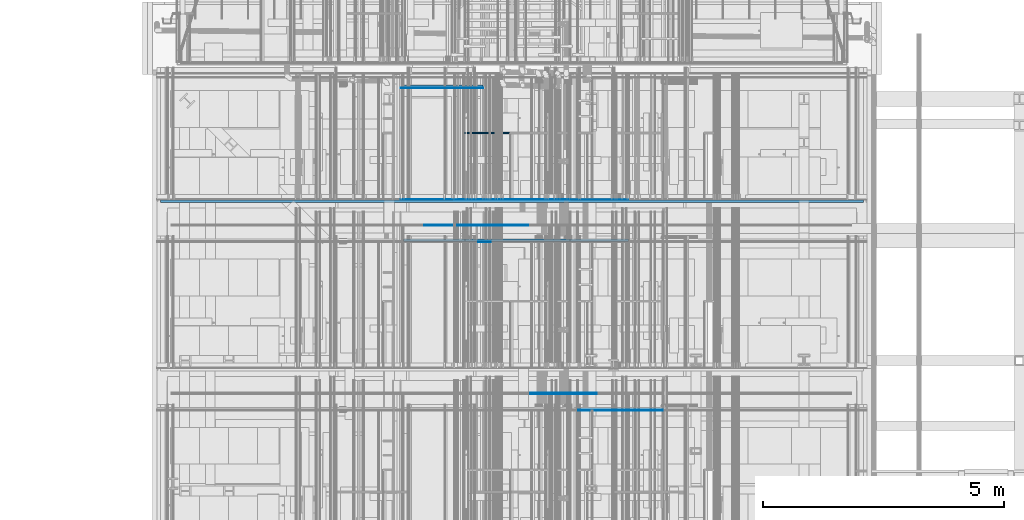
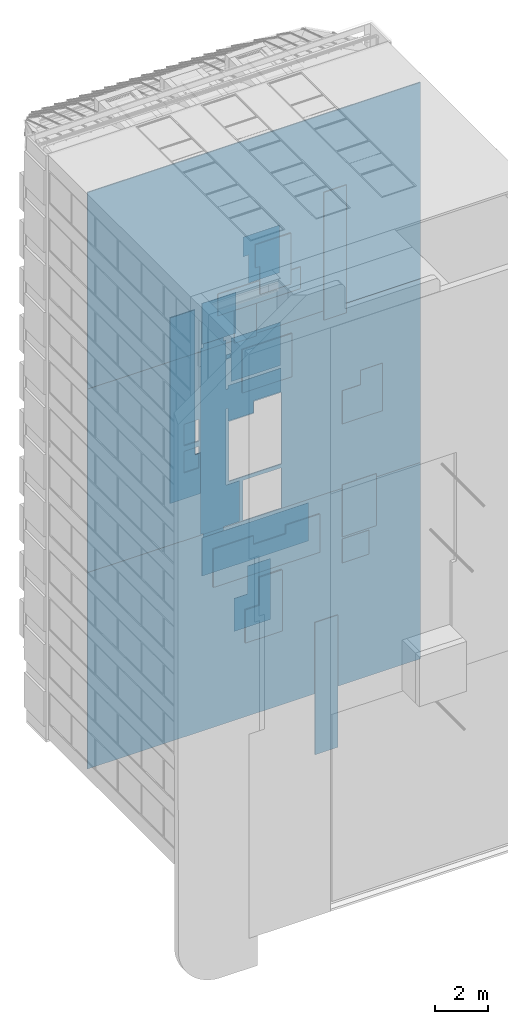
# One storey, part 253 of 583: 32 slabs.
"""IFC2X3 building model written with IfcOpenShell, lengths in metres."""

import ifcopenshell
import ifcopenshell.guid

model = None  # the IFC model being written
_history = None  # IfcOwnerHistory: only IFC2X3 demands one
_inside = {}  # id of a spatial element -> (the spatial element, [elements in it])
_under = {}  # id of a project, library or spatial element -> (it, [spatial elements below it])
_declared = {}  # id of a project -> (the project, [libraries it declares])
_typed = {}  # id of a type object -> (the type object, [elements of that type])
_made_of = {}  # id of a material, layer set ... -> (it, [elements and type objects made of it])


def new_model(schema):
    """Start an empty IFC model of exactly this schema.

    Asked for "IFC4X3", IfcOpenShell would pick the latest addendum, in which some entities
    have other attributes; the version numbers below select the first issue.
    IFC2X3 requires an IfcOwnerHistory on every rooted entity: one is made here for all.
    """
    global model, _history
    if schema == "IFC4X3":
        model = ifcopenshell.file(schema_version=(4, 3, 0, 0))
    else:
        model = ifcopenshell.file(schema=schema)
    _inside.clear()
    _under.clear()
    _declared.clear()
    _typed.clear()
    _made_of.clear()
    _history = None
    if model.schema == "IFC2X3":
        org = make("IfcOrganization", Name="unknown")
        user = make(
            "IfcPersonAndOrganization",
            ThePerson=make("IfcPerson", FamilyName="unknown"),
            TheOrganization=org,
        )
        app = make(
            "IfcApplication",
            ApplicationDeveloper=org,
            Version="unknown",
            ApplicationFullName="unknown",
            ApplicationIdentifier="unknown",
        )
        _history = make(
            "IfcOwnerHistory",
            OwningUser=user,
            OwningApplication=app,
            ChangeAction="ADDED",
            CreationDate=0,
        )
    return model


def make(cls, **values):
    """One entity of the class cls with the attributes given. An attribute that is None is left unset."""
    return model.create_entity(
        cls, **{name: value for name, value in values.items() if value is not None}
    )


def entity(cls, *values):
    """Any entity or typed value of the class cls, its attributes in the order of the schema. None: left unset."""
    e = model.create_entity(cls)
    for i, value in enumerate(values):
        if value is not None:
            e[i] = value
    return e


def rooted(cls, **values):
    """An entity with a GlobalId (a new one), such as an element, a storey or a relation."""
    return make(cls, GlobalId=ifcopenshell.guid.new(), OwnerHistory=_history, **values)


def si_unit(unit_type, name, prefix=None):
    """IfcSIUnit, for example si_unit("LENGTHUNIT", "METRE", prefix="MILLI")."""
    return make("IfcSIUnit", UnitType=unit_type, Prefix=prefix, Name=name)


def converted_unit(unit_type, name, factor, base, dimensions=None, offset=None):
    """IfcConversionBasedUnit, such as the inch: factor (a typed value) times the base unit."""
    return make(
        "IfcConversionBasedUnit"
        if offset is None
        else "IfcConversionBasedUnitWithOffset",
        ConversionOffset=offset,
        Dimensions=None
        if dimensions is None
        else entity("IfcDimensionalExponents", *dimensions),
        UnitType=unit_type,
        Name=name,
        ConversionFactor=make(
            "IfcMeasureWithUnit", ValueComponent=factor, UnitComponent=base
        ),
    )


def derived_unit(unit_type, elements):
    """IfcDerivedUnit: a product of units, each with its exponent."""
    return make(
        "IfcDerivedUnit",
        Elements=[
            make("IfcDerivedUnitElement", Unit=unit, Exponent=power)
            for unit, power in elements
        ],
        UnitType=unit_type,
    )


def money_unit(currency):
    """IfcMonetaryUnit."""
    return make("IfcMonetaryUnit", Currency=currency)


def assignment(units):
    """IfcUnitAssignment: the units of a project."""
    return None if units is None else make("IfcUnitAssignment", Units=units)


def point(xyz):
    """IfcCartesianPoint."""
    return None if xyz is None else make("IfcCartesianPoint", Coordinates=xyz)


def direction(xyz):
    """IfcDirection."""
    return None if xyz is None else make("IfcDirection", DirectionRatios=xyz)


def frame(location, z_axis=None, x_axis=None):
    """IfcAxis2Placement3D, a coordinate frame: its origin and axes. An axis left out is left unset."""
    return make(
        "IfcAxis2Placement3D",
        Location=point(location),
        Axis=direction(z_axis),
        RefDirection=direction(x_axis),
    )


def origin_with_axes():
    """The frame at (0, 0, 0) with the z axis (0, 0, 1) and the x axis (1, 0, 0) written out."""
    return frame((0.0, 0.0, 0.0), z_axis=(0.0, 0.0, 1.0), x_axis=(1.0, 0.0, 0.0))


def place(relative_to, where):
    """IfcLocalPlacement: puts the frame where relative to a parent placement (None: the world)."""
    return make(
        "IfcLocalPlacement", PlacementRelTo=relative_to, RelativePlacement=where
    )


def context(
    kind, dimensions, precision=None, world=None, true_north=None, identifier=None
):
    """IfcGeometricRepresentationContext, for example the 3D "Model" context."""
    return make(
        "IfcGeometricRepresentationContext",
        ContextIdentifier=identifier,
        ContextType=kind,
        CoordinateSpaceDimension=dimensions,
        Precision=precision,
        WorldCoordinateSystem=world,
        TrueNorth=true_north,
    )


def subcontext(parent, identifier, kind, view, scale=None):
    """IfcGeometricRepresentationSubContext, for example "Body" below "Model"."""
    return make(
        "IfcGeometricRepresentationSubContext",
        ContextIdentifier=identifier,
        ContextType=kind,
        ParentContext=parent,
        TargetScale=scale,
        TargetView=view,
    )


def project(units=None, contexts=None):
    """IfcProject with its units and contexts."""
    return rooted(
        "IfcProject",
        Name="project",
        RepresentationContexts=contexts,
        UnitsInContext=assignment(units),
    )


def spatial(cls, under=None, at=None, **own):
    """A site, building, storey or space (cls), placed at a placement, below another one or the project."""
    s = rooted(cls, ObjectPlacement=at, **own)
    if under is not None:
        _under.setdefault(under.id(), (under, []))[1].append(s)
    return s


def faces_of(points, faces, orient=None, outer=None):
    """IfcFace entities. A face is a list of loops; a loop is a list of indices into points, from 0.

    orient and outer hold one flag for each loop. By default every Orientation is true, the
    first loop of a face is its IfcFaceOuterBound and the others are IfcFaceBound.
    """
    made = []
    for i, loops in enumerate(faces):
        bounds = []
        for j, loop in enumerate(loops):
            is_outer = j == 0 if outer is None else outer[i][j]
            bounds.append(
                make(
                    "IfcFaceOuterBound" if is_outer else "IfcFaceBound",
                    Bound=make("IfcPolyLoop", Polygon=[points[k] for k in loop]),
                    Orientation=True if orient is None else orient[i][j],
                )
            )
        made.append(make("IfcFace", Bounds=bounds))
    return made


def faceted_brep(points, faces, orient=None, outer=None, voids=None):
    """IfcFacetedBrep: a solid bounded by flat faces; with voids (closed shells), ...WithVoids."""
    shared = [point(p) for p in points]
    hull = make("IfcClosedShell", CfsFaces=faces_of(shared, faces, orient, outer))
    if voids is None:
        return make("IfcFacetedBrep", Outer=hull)
    return make(
        "IfcFacetedBrepWithVoids",
        Outer=hull,
        Voids=[
            make(cls, CfsFaces=faces_of(shared, fs, o, b)) for cls, fs, o, b in voids
        ],
    )


def shape(context_of_items, identifier, shape_type, items):
    """IfcShapeRepresentation: the items that make up one representation, for example the "Body"."""
    return make(
        "IfcShapeRepresentation",
        ContextOfItems=context_of_items,
        RepresentationIdentifier=identifier,
        RepresentationType=shape_type,
        Items=items,
    )


def material(Name=None, Category=None):
    """IfcMaterial."""
    return make("IfcMaterial", Name=Name, Category=Category)


def made_of(thing, what):
    """Note that an element or type object is made of a material, layer set ...; save() writes the relation."""
    if what is not None:
        _made_of.setdefault(what.id(), (what, []))[1].append(thing)
    return thing


def type_object(cls, material=None, **own):
    """A type object (cls), such as IfcWallType, which elements share."""
    return made_of(rooted(cls, **own), material)


def element(
    cls,
    number,
    at=None,
    inside=None,
    cuts=None,
    type_object=None,
    material=None,
    context=None,
    identifier="Body",
    shape_type=None,
    held_by="IfcProductDefinitionShape",
    body=None,
    shapes=None,
    **own,
):
    """One element of the class cls, such as IfcWall. Its Tag is "e" and its number.

    at: its placement. inside: the storey or other place that contains it. cuts: it is an
    opening in that element (IfcRelVoidsElement). A single representation is given by context,
    identifier, shape_type and body (its items); several are given by shapes. held_by: the class
    of the entity that holds the representations. save() writes the other relations.
    """
    e = rooted(cls, Tag="e%d" % number, ObjectPlacement=at, **own)
    if body is not None:
        shapes = [shape(context, identifier, shape_type, body)]
    if shapes is not None:
        e.Representation = make(held_by, Representations=shapes)
    if inside is not None:
        _inside.setdefault(inside.id(), (inside, []))[1].append(e)
    if cuts is not None:
        rooted(
            "IfcRelVoidsElement", RelatingBuildingElement=cuts, RelatedOpeningElement=e
        )
    if type_object is not None:
        _typed.setdefault(type_object.id(), (type_object, []))[1].append(e)
    return made_of(e, material)


def aggregate(whole, parts):
    """IfcRelAggregates: a whole, such as a stair, and the parts it consists of."""
    return rooted("IfcRelAggregates", RelatingObject=whole, RelatedObjects=parts)


def save(model, path):
    """Write the relations noted so far, then the file.

    IfcRelAggregates (storeys below a building ...), IfcRelContainedInSpatialStructure (elements
    in a storey), IfcRelDefinesByType, IfcRelAssociatesMaterial and IfcRelDeclares: one each for
    every whole, place, type object, material and project.
    """
    for whole, parts in _under.values():
        aggregate(whole, parts)
    for where, things in _inside.values():
        rooted(
            "IfcRelContainedInSpatialStructure",
            RelatedElements=things,
            RelatingStructure=where,
        )
    for kind, things in _typed.values():
        rooted("IfcRelDefinesByType", RelatedObjects=things, RelatingType=kind)
    for what, things in _made_of.values():
        rooted("IfcRelAssociatesMaterial", RelatedObjects=things, RelatingMaterial=what)
    for by, libraries in _declared.values():
        rooted("IfcRelDeclares", RelatingContext=by, RelatedDefinitions=libraries)
    model.write(path)


model = new_model("IFC2X3")

# Units and contexts
model_context = context("Model", 3, precision=1e-05, world=origin_with_axes(), true_north=direction((0.0, 1.0)))
body_context = subcontext(model_context, "Body", "Model", "MODEL_VIEW", scale=1.0)
ifc_project = project(units=[si_unit("LENGTHUNIT", "METRE"), si_unit("AREAUNIT", "SQUARE_METRE"), si_unit("VOLUMEUNIT", "CUBIC_METRE"), si_unit("ABSORBEDDOSEUNIT", "GRAY"), si_unit("AMOUNTOFSUBSTANCEUNIT", "MOLE"), si_unit("DOSEEQUIVALENTUNIT", "SIEVERT"), si_unit("ELECTRICCAPACITANCEUNIT", "FARAD"), si_unit("ELECTRICCHARGEUNIT", "COULOMB"), si_unit("ELECTRICCONDUCTANCEUNIT", "SIEMENS"), si_unit("ELECTRICCURRENTUNIT", "AMPERE"), si_unit("ELECTRICRESISTANCEUNIT", "OHM"), si_unit("ELECTRICVOLTAGEUNIT", "VOLT"), si_unit("ENERGYUNIT", "JOULE"), si_unit("FORCEUNIT", "NEWTON"), si_unit("FREQUENCYUNIT", "HERTZ"), si_unit("ILLUMINANCEUNIT", "LUX"), si_unit("INDUCTANCEUNIT", "HENRY"), si_unit("LUMINOUSFLUXUNIT", "LUMEN"), si_unit("LUMINOUSINTENSITYUNIT", "CANDELA"), si_unit("MAGNETICFLUXDENSITYUNIT", "TESLA"), si_unit("MAGNETICFLUXUNIT", "WEBER"), si_unit("MASSUNIT", "GRAM"), converted_unit("PLANEANGLEUNIT", "degree", entity("IfcReal", 0.0174532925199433), si_unit("PLANEANGLEUNIT", "RADIAN"), dimensions=[0, 0, 0, 0, 0, 0, 0]), si_unit("POWERUNIT", "WATT"), si_unit("PRESSUREUNIT", "PASCAL"), si_unit("RADIOACTIVITYUNIT", "BECQUEREL"), si_unit("SOLIDANGLEUNIT", "STERADIAN"), si_unit("THERMODYNAMICTEMPERATUREUNIT", "KELVIN"), si_unit("TIMEUNIT", "SECOND"), derived_unit("ACCELERATIONUNIT", [(si_unit("LENGTHUNIT", "METRE"), 1), (si_unit("TIMEUNIT", "SECOND"), -2)]), derived_unit("ANGULARVELOCITYUNIT", [(converted_unit("PLANEANGLEUNIT", "degree", entity("IfcReal", 0.0174532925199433), si_unit("PLANEANGLEUNIT", "RADIAN"), dimensions=[0, 0, 0, 0, 0, 0, 0]), 1), (si_unit("TIMEUNIT", "SECOND"), -1)]), derived_unit("CURVATUREUNIT", [(converted_unit("PLANEANGLEUNIT", "degree", entity("IfcReal", 0.0174532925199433), si_unit("PLANEANGLEUNIT", "RADIAN"), dimensions=[0, 0, 0, 0, 0, 0, 0]), 1), (si_unit("LENGTHUNIT", "METRE"), -1)]), derived_unit("DYNAMICVISCOSITYUNIT", [(si_unit("PRESSUREUNIT", "PASCAL"), 1), (si_unit("TIMEUNIT", "SECOND"), 1)]), derived_unit("HEATFLUXDENSITYUNIT", [(si_unit("POWERUNIT", "WATT"), 1), (si_unit("LENGTHUNIT", "METRE"), -2)]), derived_unit("HEATINGVALUEUNIT", [(si_unit("ENERGYUNIT", "JOULE"), 1), (si_unit("MASSUNIT", "GRAM"), -1)]), derived_unit("INTEGERCOUNTRATEUNIT", [(si_unit("TIMEUNIT", "SECOND"), -1)]), derived_unit("IONCONCENTRATIONUNIT", [(si_unit("MASSUNIT", "GRAM"), 1), (si_unit("VOLUMEUNIT", "CUBIC_METRE"), -1)]), derived_unit("ISOTHERMALMOISTURECAPACITYUNIT", [(si_unit("VOLUMEUNIT", "CUBIC_METRE"), 1), (si_unit("MASSUNIT", "GRAM"), -1)]), derived_unit("KINEMATICVISCOSITYUNIT", [(si_unit("AREAUNIT", "SQUARE_METRE"), 1), (si_unit("TIMEUNIT", "SECOND"), -1)]), derived_unit("LINEARFORCEUNIT", [(si_unit("FORCEUNIT", "NEWTON"), 1), (si_unit("LENGTHUNIT", "METRE"), -1)]), derived_unit("LINEARMOMENTUNIT", [(si_unit("FORCEUNIT", "NEWTON"), 1), (si_unit("LENGTHUNIT", "METRE"), -1)]), derived_unit("LINEARSTIFFNESSUNIT", [(si_unit("FORCEUNIT", "NEWTON"), 1), (si_unit("LENGTHUNIT", "METRE"), -1)]), derived_unit("LINEARVELOCITYUNIT", [(si_unit("LENGTHUNIT", "METRE"), 1), (si_unit("TIMEUNIT", "SECOND"), -1)]), derived_unit("LUMINOUSINTENSITYDISTRIBUTIONUNIT", [(si_unit("LUMINOUSINTENSITYUNIT", "CANDELA"), 1), (si_unit("LUMINOUSFLUXUNIT", "LUMEN"), -1)]), derived_unit("MASSDENSITYUNIT", [(si_unit("MASSUNIT", "GRAM"), 1), (si_unit("VOLUMEUNIT", "CUBIC_METRE"), -1)]), derived_unit("MASSFLOWRATEUNIT", [(si_unit("MASSUNIT", "GRAM"), 1), (si_unit("TIMEUNIT", "SECOND"), -1)]), derived_unit("MASSPERLENGTHUNIT", [(si_unit("MASSUNIT", "GRAM"), 1), (si_unit("LENGTHUNIT", "METRE"), -1)]), derived_unit("MODULUSOFELASTICITYUNIT", [(si_unit("FORCEUNIT", "NEWTON"), 1), (si_unit("AREAUNIT", "SQUARE_METRE"), -1)]), derived_unit("MODULUSOFLINEARSUBGRADEREACTIONUNIT", [(si_unit("FORCEUNIT", "NEWTON"), 1), (si_unit("LENGTHUNIT", "METRE"), -2)]), derived_unit("MODULUSOFROTATIONALSUBGRADEREACTIONUNIT", [(si_unit("FORCEUNIT", "NEWTON"), 1), (si_unit("LENGTHUNIT", "METRE"), 1)]), derived_unit("MODULUSOFSUBGRADEREACTIONUNIT", [(si_unit("FORCEUNIT", "NEWTON"), 1), (si_unit("VOLUMEUNIT", "CUBIC_METRE"), -1)]), derived_unit("MOISTUREDIFFUSIVITYUNIT", [(si_unit("VOLUMEUNIT", "CUBIC_METRE"), 1), (si_unit("TIMEUNIT", "SECOND"), -1)]), derived_unit("MOLECULARWEIGHTUNIT", [(si_unit("MASSUNIT", "GRAM"), 1), (si_unit("AMOUNTOFSUBSTANCEUNIT", "MOLE"), -1)]), derived_unit("PLANARFORCEUNIT", [(si_unit("FORCEUNIT", "NEWTON"), 1), (si_unit("LENGTHUNIT", "METRE"), -2)]), derived_unit("ROTATIONALFREQUENCYUNIT", [(si_unit("TIMEUNIT", "SECOND"), -1)]), derived_unit("ROTATIONALMASSUNIT", [(si_unit("MASSUNIT", "GRAM"), 1), (si_unit("LENGTHUNIT", "METRE"), 2)]), derived_unit("ROTATIONALSTIFFNESSUNIT", [(si_unit("FORCEUNIT", "NEWTON"), 1), (si_unit("LENGTHUNIT", "METRE"), 1), (converted_unit("PLANEANGLEUNIT", "degree", entity("IfcReal", 0.0174532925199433), si_unit("PLANEANGLEUNIT", "RADIAN"), dimensions=[0, 0, 0, 0, 0, 0, 0]), -1)]), derived_unit("SECTIONAREAINTEGRALUNIT", [(si_unit("LENGTHUNIT", "METRE"), 5)]), derived_unit("SECTIONMODULUSUNIT", [(si_unit("LENGTHUNIT", "METRE"), 3)]), derived_unit("SHEARMODULUSUNIT", [(si_unit("FORCEUNIT", "NEWTON"), 1), (si_unit("AREAUNIT", "SQUARE_METRE"), -1)]), derived_unit("SOUNDPOWERUNIT", [(si_unit("ENERGYUNIT", "JOULE"), 1), (si_unit("TIMEUNIT", "SECOND"), -1)]), derived_unit("SPECIFICHEATCAPACITYUNIT", [(si_unit("FORCEUNIT", "NEWTON"), 1), (si_unit("MASSUNIT", "GRAM"), -1), (si_unit("THERMODYNAMICTEMPERATUREUNIT", "KELVIN"), -1)]), derived_unit("TEMPERATUREGRADIENTUNIT", [(si_unit("THERMODYNAMICTEMPERATUREUNIT", "KELVIN"), 1), (si_unit("LENGTHUNIT", "METRE"), -1)]), derived_unit("THERMALADMITTANCEUNIT", [(si_unit("POWERUNIT", "WATT"), 1), (si_unit("AREAUNIT", "SQUARE_METRE"), -1), (si_unit("THERMODYNAMICTEMPERATUREUNIT", "KELVIN"), -1)]), derived_unit("THERMALCONDUCTANCEUNIT", [(si_unit("POWERUNIT", "WATT"), 1), (si_unit("LENGTHUNIT", "METRE"), -1), (si_unit("THERMODYNAMICTEMPERATUREUNIT", "KELVIN"), -1)]), derived_unit("THERMALEXPANSIONCOEFFICIENTUNIT", [(si_unit("THERMODYNAMICTEMPERATUREUNIT", "KELVIN"), -1)]), derived_unit("THERMALRESISTANCEUNIT", [(si_unit("AREAUNIT", "SQUARE_METRE"), 1), (si_unit("POWERUNIT", "WATT"), -1)]), derived_unit("THERMALTRANSMITTANCEUNIT", [(si_unit("POWERUNIT", "WATT"), 1), (si_unit("AREAUNIT", "SQUARE_METRE"), -1), (si_unit("THERMODYNAMICTEMPERATUREUNIT", "KELVIN"), -1)]), derived_unit("TORQUEUNIT", [(si_unit("FORCEUNIT", "NEWTON"), 1), (si_unit("LENGTHUNIT", "METRE"), 1)]), derived_unit("VAPORPERMEABILITYUNIT", [(si_unit("MASSUNIT", "GRAM"), 1), (si_unit("TIMEUNIT", "SECOND"), -1)]), derived_unit("VOLUMETRICFLOWRATEUNIT", [(si_unit("VOLUMEUNIT", "CUBIC_METRE"), 1), (si_unit("TIMEUNIT", "SECOND"), -1)]), derived_unit("WARPINGCONSTANTUNIT", [(si_unit("LENGTHUNIT", "METRE"), 6)]), derived_unit("WARPINGMOMENTUNIT", [(si_unit("FORCEUNIT", "NEWTON"), 1), (si_unit("LENGTHUNIT", "METRE"), 2)]), money_unit("GBP")], contexts=[model_context])

# Site, building, storey
site_placement = place(None, origin_with_axes())
site = spatial("IfcSite", under=ifc_project, at=site_placement, Name="Site", CompositionType="ELEMENT")
building_placement = place(site_placement, origin_with_axes())
building = spatial("IfcBuilding", under=site, at=building_placement, Name="Building01", CompositionType="ELEMENT")
storey_placement = place(building_placement, frame((0.0, 0.0, 20.78), z_axis=(0.0, 0.0, 1.0), x_axis=(1.0, 0.0, 0.0)))
storey = spatial("IfcBuildingStorey", under=building, at=storey_placement, Name="RL", CompositionType="ELEMENT", Elevation=20.78)

# Slabs
ifc_material_1 = material(Name="A_BSUK_CeilingSoffitFinishes_Suspended")
slab_type_1 = type_object("IfcSlabType", Name="A-FloorsSlabs A_BSUK_Slabs", PredefinedType="FLOOR")
placement = place(storey_placement, frame((0.0, 0.0, -20.78), z_axis=(0.0, 0.0, 1.0), x_axis=(1.0, 0.0, 0.0)))
element("IfcSlab", 1, at=placement, inside=storey, type_object=slab_type_1, material=ifc_material_1, Name="A-FloorsSlabs A_BSUK_Slabs", ObjectType="CompoundSlabLeaf", context=body_context, shape_type="Brep", body=[
    faceted_brep([(10.32, 7.765, 10.488871), (10.32, 7.78, 10.488871), (10.32, 7.78, 12.893585), (10.32, 7.765, 12.893585), (8.82, 7.765, 10.488871), (8.82, 7.78, 10.488871), (8.82, 7.765, 12.893585), (8.82, 7.78, 12.893585)], [[[0, 1, 2, 3]], [[4, 5, 1, 0]], [[6, 7, 5, 4]], [[3, 2, 7, 6]], [[1, 5, 7, 2]], [[3, 6, 4, 0]]]),
])
element("IfcSlab", 2, at=placement, inside=storey, type_object=slab_type_1, material=ifc_material_1, Name="A-FloorsSlabs A_BSUK_Slabs", ObjectType="CompoundSlabLeaf", context=body_context, shape_type="Brep", body=[
    faceted_brep([(8.82, 7.765, 9.285), (8.82, 7.78, 9.285), (9.992662, 7.78, 9.285), (9.992662, 7.765, 9.285), (8.82, 7.765, 10.393585), (8.82, 7.78, 10.393585), (9.992662, 7.765, 10.393585), (9.992662, 7.78, 10.393585)], [[[0, 1, 2, 3]], [[4, 5, 1, 0]], [[6, 7, 5, 4]], [[3, 2, 7, 6]], [[1, 5, 7, 2]], [[3, 6, 4, 0]]]),
])
element("IfcSlab", 3, at=placement, inside=storey, type_object=slab_type_1, material=ifc_material_1, Name="A-FloorsSlabs A_BSUK_Slabs", ObjectType="CompoundSlabLeaf", context=body_context, shape_type="Brep", body=[
    faceted_brep([(10.57, 7.765, 15.708132), (10.57, 7.78, 15.708132), (10.57, 7.78, 17.905), (10.57, 7.765, 17.905), (8.82, 7.765, 15.708132), (8.82, 7.78, 15.708132), (8.82, 7.765, 17.238132), (8.82, 7.78, 17.238132), (9.62, 7.765, 17.238132), (9.62, 7.78, 17.238132), (9.62, 7.765, 17.905), (9.62, 7.78, 17.905)], [[[0, 1, 2, 3]], [[4, 5, 1, 0]], [[6, 7, 5, 4]], [[8, 9, 7, 6]], [[10, 11, 9, 8]], [[3, 2, 11, 10]], [[1, 5, 7, 9, 11, 2]], [[3, 10, 8, 6, 4, 0]]]),
])
element("IfcSlab", 4, at=placement, inside=storey, type_object=slab_type_1, material=ifc_material_1, Name="A-FloorsSlabs A_BSUK_Slabs", ObjectType="CompoundSlabLeaf", context=body_context, shape_type="Brep", body=[
    faceted_brep([(8.2075, 8.115, 20.510161), (8.2075, 8.13, 20.510161), (9.2075, 8.13, 20.510161), (9.2075, 8.115, 20.510161), (8.2075, 8.115, 26.417), (8.2075, 8.13, 26.417), (9.2075, 8.115, 26.417), (9.2075, 8.13, 26.417)], [[[0, 1, 2, 3]], [[4, 5, 1, 0]], [[6, 7, 5, 4]], [[3, 2, 7, 6]], [[1, 5, 7, 2]], [[3, 6, 4, 0]]]),
])
element("IfcSlab", 5, at=placement, inside=storey, type_object=slab_type_1, material=ifc_material_1, Name="A-FloorsSlabs A_BSUK_Slabs", ObjectType="CompoundSlabLeaf", context=body_context, shape_type="Brep", body=[
    faceted_brep([(7.82317, 8.115, 0.563), (7.82317, 8.13, 0.563), (8.82317, 8.13, 0.563), (8.82317, 8.115, 0.563), (7.82317, 8.115, 6.677169), (7.82317, 8.13, 6.677169), (8.82317, 8.115, 6.677169), (8.82317, 8.13, 6.677169)], [[[0, 1, 2, 3]], [[4, 5, 1, 0]], [[6, 7, 5, 4]], [[3, 2, 7, 6]], [[1, 5, 7, 2]], [[3, 6, 4, 0]]]),
])
element("IfcSlab", 6, at=placement, inside=storey, type_object=slab_type_1, material=ifc_material_1, Name="A-FloorsSlabs A_BSUK_Slabs", ObjectType="CompoundSlabLeaf", context=body_context, shape_type="Brep", body=[
    faceted_brep([(8.2075, 8.1, 20.510161), (8.2075, 8.115, 20.510161), (9.2075, 8.115, 20.510161), (9.2075, 8.1, 20.510161), (8.2075, 8.1, 26.417), (8.2075, 8.115, 26.417), (9.2075, 8.1, 26.417), (9.2075, 8.115, 26.417)], [[[0, 1, 2, 3]], [[4, 5, 1, 0]], [[6, 7, 5, 4]], [[3, 2, 7, 6]], [[1, 5, 7, 2]], [[3, 6, 4, 0]]]),
])
element("IfcSlab", 7, at=placement, inside=storey, type_object=slab_type_1, material=ifc_material_1, Name="A-FloorsSlabs A_BSUK_Slabs", ObjectType="CompoundSlabLeaf", context=body_context, shape_type="Brep", body=[
    faceted_brep([(7.82317, 8.1, 0.563), (7.82317, 8.115, 0.563), (8.82317, 8.115, 0.563), (8.82317, 8.1, 0.563), (7.82317, 8.1, 6.677169), (7.82317, 8.115, 6.677169), (8.82317, 8.1, 6.677169), (8.82317, 8.115, 6.677169)], [[[0, 1, 2, 3]], [[4, 5, 1, 0]], [[6, 7, 5, 4]], [[3, 2, 7, 6]], [[1, 5, 7, 2]], [[3, 6, 4, 0]]]),
])
ifc_material_2 = material(Name="A_BSUK_InternalFinishes_FloorScreed")
element("IfcSlab", 8, at=placement, inside=storey, type_object=slab_type_1, material=ifc_material_2, Name="A-FloorsSlabs A_BSUK_Slabs", ObjectType="CompoundSlabLeaf", context=body_context, shape_type="Brep", body=[
    faceted_brep([(14.73, 12.08, 0.17), (14.73, 12.13, 0.17), (14.73, 12.13, 9.25), (14.73, 12.08, 9.25), (0.17, 12.08, 0.17), (0.17, 12.13, 0.17), (0.17, 12.08, 9.25), (0.17, 12.13, 9.25)], [[[0, 1, 2, 3]], [[4, 5, 1, 0]], [[6, 7, 5, 4]], [[3, 2, 7, 6]], [[1, 5, 7, 2]], [[3, 6, 4, 0]]]),
])
element("IfcSlab", 9, at=placement, inside=storey, type_object=slab_type_1, material=ifc_material_2, Name="A-FloorsSlabs A_BSUK_Slabs", ObjectType="CompoundSlabLeaf", context=body_context, shape_type="Brep", body=[
    faceted_brep([(14.73, 12.08, 17.73), (14.73, 12.13, 17.73), (14.73, 12.13, 26.81), (14.73, 12.08, 26.81), (0.17, 12.08, 17.73), (0.17, 12.13, 17.73), (0.17, 12.08, 26.81), (0.17, 12.13, 26.81)], [[[0, 1, 2, 3]], [[4, 5, 1, 0]], [[6, 7, 5, 4]], [[3, 2, 7, 6]], [[1, 5, 7, 2]], [[3, 6, 4, 0]]]),
])
element("IfcSlab", 10, at=placement, inside=storey, type_object=slab_type_1, material=ifc_material_2, Name="A-FloorsSlabs A_BSUK_Slabs", ObjectType="CompoundSlabLeaf", context=body_context, shape_type="Brep", body=[
    faceted_brep([(8.65, 12.13, 11.13), (6.98, 12.13, 11.13), (6.98, 12.13, 9.25), (0.17, 12.13, 9.25), (0.17, 12.13, 17.73), (14.73, 12.13, 17.73), (14.73, 12.13, 9.25), (8.65, 12.13, 9.25), (5.05385, 12.13, 13.375), (4.389428, 12.13, 13.375), (4.389428, 12.13, 12.375), (5.05385, 12.13, 12.375), (5.05385, 12.13, 14.625), (4.389428, 12.13, 14.625), (4.389428, 12.13, 13.625), (5.05385, 12.13, 13.625), (6.35, 12.13, 14.059316), (6.35, 12.13, 11.3), (8.65, 12.13, 11.3), (8.65, 12.13, 14.609584), (7.454282, 12.13, 14.609584), (7.454282, 12.13, 14.059316), (8.65, 12.08, 11.13), (8.65, 12.08, 9.25), (14.73, 12.08, 9.25), (14.73, 12.08, 17.73), (0.17, 12.08, 17.73), (0.17, 12.08, 9.25), (6.98, 12.08, 9.25), (6.98, 12.08, 11.13), (5.05385, 12.08, 13.375), (5.05385, 12.08, 12.375), (4.389428, 12.08, 12.375), (4.389428, 12.08, 13.375), (6.35, 12.08, 14.059316), (7.454282, 12.08, 14.059316), (7.454282, 12.08, 14.609584), (8.65, 12.08, 14.609584), (8.65, 12.08, 11.3), (6.35, 12.08, 11.3), (5.05385, 12.08, 14.625), (5.05385, 12.08, 13.625), (4.389428, 12.08, 13.625), (4.389428, 12.08, 14.625)], [[[0, 1, 2, 3, 4, 5, 6, 7], [8, 9, 10, 11], [12, 13, 14, 15], [16, 17, 18, 19, 20, 21]], [[22, 23, 24, 25, 26, 27, 28, 29], [30, 31, 32, 33], [34, 35, 36, 37, 38, 39], [40, 41, 42, 43]], [[23, 7, 6, 24]], [[2, 28, 27, 3]], [[35, 21, 20, 36]], [[24, 6, 5, 25]], [[26, 4, 3, 27]], [[25, 5, 4, 26]], [[15, 41, 40, 12]], [[12, 40, 43, 13]], [[13, 43, 42, 14]], [[14, 42, 41, 15]], [[11, 31, 30, 8]], [[8, 30, 33, 9]], [[9, 33, 32, 10]], [[10, 32, 31, 11]], [[18, 38, 37, 19]], [[19, 37, 36, 20]], [[17, 39, 38, 18]], [[16, 34, 39, 17]], [[21, 35, 34, 16]], [[0, 22, 29, 1]], [[7, 23, 22, 0]], [[1, 29, 28, 2]]]),
])
ifc_material_3 = material(Name="A_BSUK_Ceramic_WallTiles")
element("IfcSlab", 11, at=placement, inside=storey, type_object=slab_type_1, material=ifc_material_3, Name="A-FloorsSlabs A_BSUK_Slabs", ObjectType="CompoundSlabLeaf", context=body_context, shape_type="Brep", body=[
    faceted_brep([(6.475, 13.505, 16.03), (6.475, 13.53, 16.03), (6.475, 13.53, 15.83), (6.475, 13.505, 15.83), (7.849998, 13.505, 16.03), (7.849998, 13.53, 16.03), (7.85, 13.505, 15.830003), (7.85, 13.53, 15.830003)], [[[0, 1, 2, 3]], [[4, 5, 1, 0]], [[6, 7, 5, 4]], [[3, 2, 7, 6]], [[1, 5, 7, 2]], [[3, 6, 4, 0]]]),
])
ifc_material_4 = material(Name="A_BSUK_ExpandedPolystyreneBoards")
element("IfcSlab", 12, at=placement, inside=storey, type_object=slab_type_1, material=ifc_material_4, Name="A-FloorsSlabs A_BSUK_Slabs", ObjectType="CompoundSlabLeaf", context=body_context, shape_type="Brep", body=[
    faceted_brep([(5.205, 12.13, 7.289669), (5.205, 12.133, 7.289669), (9.862704, 12.133, 7.289669), (9.862704, 12.13, 7.289669), (5.205, 12.13, 9.06), (5.205, 12.133, 9.06), (6.607081, 12.13, 9.06), (6.607081, 12.133, 9.06), (8.372405, 12.13, 9.06), (8.372405, 12.133, 9.06), (8.9, 12.13, 9.06), (8.9, 12.133, 9.06), (9.862704, 12.13, 9.06), (9.862704, 12.133, 9.06)], [[[0, 1, 2, 3]], [[4, 5, 1, 0]], [[6, 7, 5, 4]], [[8, 9, 7, 6]], [[10, 11, 9, 8]], [[12, 13, 11, 10]], [[3, 2, 13, 12]], [[1, 5, 7, 9, 11, 13, 2]], [[3, 12, 10, 8, 6, 4, 0]]]),
])
element("IfcSlab", 13, at=placement, inside=storey, type_object=slab_type_1, material=ifc_material_4, Name="A-FloorsSlabs A_BSUK_Slabs", ObjectType="CompoundSlabLeaf", context=body_context, shape_type="Brep", body=[
    faceted_brep([(6.15, 12.13, 9.25), (6.15, 12.133, 9.25), (6.85, 12.133, 9.25), (6.85, 12.13, 9.25), (6.15, 12.13, 9.06), (6.15, 12.133, 9.06), (5.25, 12.13, 9.06), (5.25, 12.133, 9.06), (5.25, 12.13, 9.25), (5.25, 12.133, 9.25), (5.15, 12.13, 9.25), (5.15, 12.133, 9.25), (5.15, 12.13, 17.83), (5.15, 12.133, 17.83), (5.25, 12.13, 17.83), (5.25, 12.133, 17.83), (5.25, 12.13, 18.0), (5.25, 12.133, 18.0), (6.15, 12.13, 18.0), (6.15, 12.133, 18.0), (6.15, 12.13, 17.83), (6.15, 12.133, 17.83), (6.25, 12.13, 17.83), (6.25, 12.133, 17.83), (6.25, 12.13, 15.558), (6.25, 12.133, 15.558), (6.35, 12.13, 15.558), (6.35, 12.133, 15.558), (6.35, 12.13, 15.6), (6.35, 12.133, 15.6), (6.35, 12.13, 15.7), (6.35, 12.133, 15.7), (8.65, 12.13, 15.7), (8.65, 12.133, 15.7), (8.65, 12.13, 14.609584), (8.65, 12.133, 14.609584), (7.454282, 12.13, 14.609584), (7.454282, 12.133, 14.609584), (7.454282, 12.13, 14.059316), (7.454282, 12.133, 14.059316), (6.35, 12.13, 14.059316), (6.35, 12.133, 14.059316), (6.35, 12.13, 14.658), (6.35, 12.133, 14.658), (6.25, 12.13, 14.658), (6.25, 12.133, 14.658), (6.25, 12.13, 11.13), (6.25, 12.133, 11.13), (6.85, 12.13, 11.13), (6.85, 12.133, 11.13)], [[[0, 1, 2, 3]], [[4, 5, 1, 0]], [[6, 7, 5, 4]], [[8, 9, 7, 6]], [[10, 11, 9, 8]], [[12, 13, 11, 10]], [[14, 15, 13, 12]], [[16, 17, 15, 14]], [[18, 19, 17, 16]], [[20, 21, 19, 18]], [[22, 23, 21, 20]], [[24, 25, 23, 22]], [[26, 27, 25, 24]], [[28, 29, 27, 26]], [[30, 31, 29, 28]], [[32, 33, 31, 30]], [[34, 35, 33, 32]], [[36, 37, 35, 34]], [[38, 39, 37, 36]], [[40, 41, 39, 38]], [[42, 43, 41, 40]], [[44, 45, 43, 42]], [[46, 47, 45, 44]], [[48, 49, 47, 46]], [[3, 2, 49, 48]], [[1, 5, 7, 9, 11, 13, 15, 17, 19, 21, 23, 25, 27, 29, 31, 33, 35, 37, 39, 41, 43, 45, 47, 49, 2]], [[3, 48, 46, 44, 42, 40, 38, 36, 34, 32, 30, 28, 26, 24, 22, 20, 18, 16, 14, 12, 10, 8, 6, 4, 0]]]),
])
element("IfcSlab", 14, at=placement, inside=storey, type_object=slab_type_1, material=ifc_material_4, Name="A-FloorsSlabs A_BSUK_Slabs", ObjectType="CompoundSlabLeaf", context=body_context, shape_type="Brep", body=[
    faceted_brep([(6.69, 12.13, 18.0), (6.69, 12.133, 18.0), (6.69, 12.133, 19.897661), (6.69, 12.13, 19.897661), (5.205, 12.13, 18.0), (5.205, 12.133, 18.0), (5.205, 12.13, 19.897661), (5.205, 12.133, 19.897661)], [[[0, 1, 2, 3]], [[4, 5, 1, 0]], [[6, 7, 5, 4]], [[3, 2, 7, 6]], [[1, 5, 7, 2]], [[3, 6, 4, 0]]]),
])
ifc_material_5 = material(Name="A_BSUK_Ceramic_FloorTiles")
element("IfcSlab", 15, at=placement, inside=storey, type_object=slab_type_1, material=ifc_material_5, Name="A-FloorsSlabs A_BSUK_Slabs", ObjectType="CompoundSlabLeaf", context=body_context, shape_type="Brep", body=[
    faceted_brep([(6.475, 12.133, 15.83), (6.475, 12.145, 15.83), (8.65, 12.145, 15.83), (8.65, 12.133, 15.83), (6.475, 12.133, 17.83), (6.475, 12.145, 17.83), (8.65, 12.133, 17.83), (8.65, 12.145, 17.83)], [[[0, 1, 2, 3]], [[4, 5, 1, 0]], [[6, 7, 5, 4]], [[3, 2, 7, 6]], [[1, 5, 7, 2]], [[3, 6, 4, 0]]]),
])
element("IfcSlab", 16, at=placement, inside=storey, type_object=slab_type_1, material=ifc_material_5, Name="A-FloorsSlabs A_BSUK_Slabs", ObjectType="CompoundSlabLeaf", context=body_context, shape_type="Brep", body=[
    faceted_brep([(8.595, 12.133, 20.122661), (8.595, 12.145, 20.122661), (8.595, 12.145, 22.326661), (8.595, 12.133, 22.326661), (7.25, 12.133, 20.122661), (7.25, 12.145, 20.122661), (7.25, 12.133, 21.417661), (7.25, 12.145, 21.417661), (7.0, 12.133, 21.417661), (7.0, 12.145, 21.417661), (7.0, 12.133, 22.326661), (7.0, 12.145, 22.326661)], [[[0, 1, 2, 3]], [[4, 5, 1, 0]], [[6, 7, 5, 4]], [[8, 9, 7, 6]], [[10, 11, 9, 8]], [[3, 2, 11, 10]], [[1, 5, 7, 9, 11, 2]], [[3, 10, 8, 6, 4, 0]]]),
])
element("IfcSlab", 17, at=placement, inside=storey, type_object=slab_type_1, material=ifc_material_5, Name="A-FloorsSlabs A_BSUK_Slabs", ObjectType="CompoundSlabLeaf", context=body_context, shape_type="Brep", body=[
    faceted_brep([(8.21067, 12.133, 4.24073), (8.21067, 12.145, 4.24073), (8.21067, 12.145, 7.064669), (8.21067, 12.133, 7.064669), (6.606475, 12.133, 4.24073), (6.606475, 12.145, 4.24073), (6.606475, 12.133, 5.769669), (6.606475, 12.145, 5.769669), (7.206475, 12.133, 5.769669), (7.206475, 12.145, 5.769669), (7.206475, 12.133, 7.064669), (7.206475, 12.145, 7.064669)], [[[0, 1, 2, 3]], [[4, 5, 1, 0]], [[6, 7, 5, 4]], [[8, 9, 7, 6]], [[10, 11, 9, 8]], [[3, 2, 11, 10]], [[1, 5, 7, 9, 11, 2]], [[3, 10, 8, 6, 4, 0]]]),
])
ifc_material_6 = material(Name="A_BSUK_Carpet-Pile")
element("IfcSlab", 18, at=placement, inside=storey, type_object=slab_type_1, material=ifc_material_6, Name="A-FloorsSlabs A_BSUK_Slabs", ObjectType="CompoundSlabLeaf", context=body_context, shape_type="Brep", body=[
    faceted_brep([(9.862704, 12.133, 7.289669), (9.862704, 12.145, 7.289669), (9.862704, 12.145, 9.06), (9.862704, 12.133, 9.06), (5.205, 12.133, 7.289669), (5.205, 12.145, 7.289669), (5.205, 12.133, 9.06), (5.205, 12.145, 9.06), (6.968405, 12.133, 9.06), (6.968405, 12.145, 9.06), (6.968405, 12.133, 8.658), (6.968405, 12.145, 8.658), (7.610847, 12.133, 8.658), (7.610847, 12.145, 8.658), (8.372405, 12.133, 8.658), (8.372405, 12.145, 8.658), (8.372405, 12.133, 9.06), (8.372405, 12.145, 9.06)], [[[0, 1, 2, 3]], [[4, 5, 1, 0]], [[6, 7, 5, 4]], [[8, 9, 7, 6]], [[10, 11, 9, 8]], [[12, 13, 11, 10]], [[14, 15, 13, 12]], [[16, 17, 15, 14]], [[3, 2, 17, 16]], [[1, 5, 7, 9, 11, 13, 15, 17, 2]], [[3, 16, 14, 12, 10, 8, 6, 4, 0]]]),
])
element("IfcSlab", 19, at=placement, inside=storey, type_object=slab_type_1, material=ifc_material_6, Name="A-FloorsSlabs A_BSUK_Slabs", ObjectType="CompoundSlabLeaf", context=body_context, shape_type="Brep", body=[
    faceted_brep([(5.25, 12.133, 9.06), (5.25, 12.145, 9.06), (6.15, 12.145, 9.06), (6.15, 12.133, 9.06), (5.25, 12.133, 9.25), (5.25, 12.145, 9.25), (5.15, 12.133, 9.25), (5.15, 12.145, 9.25), (5.15, 12.133, 17.83), (5.15, 12.145, 17.83), (6.25, 12.133, 17.83), (6.25, 12.145, 17.83), (6.25, 12.133, 14.658), (6.25, 12.145, 14.658), (6.25, 12.133, 11.13), (6.25, 12.145, 11.13), (6.85, 12.133, 11.13), (6.85, 12.145, 11.13), (6.85, 12.133, 9.25), (6.85, 12.145, 9.25), (6.15, 12.133, 9.25), (6.15, 12.145, 9.25)], [[[0, 1, 2, 3]], [[4, 5, 1, 0]], [[6, 7, 5, 4]], [[8, 9, 7, 6]], [[10, 11, 9, 8]], [[12, 13, 11, 10]], [[14, 15, 13, 12]], [[16, 17, 15, 14]], [[18, 19, 17, 16]], [[20, 21, 19, 18]], [[3, 2, 21, 20]], [[1, 5, 7, 9, 11, 13, 15, 17, 19, 21, 2]], [[3, 20, 18, 16, 14, 12, 10, 8, 6, 4, 0]]]),
])
element("IfcSlab", 20, at=placement, inside=storey, type_object=slab_type_1, material=ifc_material_6, Name="A-FloorsSlabs A_BSUK_Slabs", ObjectType="CompoundSlabLeaf", context=body_context, shape_type="Brep", body=[
    faceted_brep([(7.454282, 12.133, 14.609584), (7.454282, 12.145, 14.609584), (8.65, 12.145, 14.609584), (8.65, 12.133, 14.609584), (7.454282, 12.133, 14.059316), (7.454282, 12.145, 14.059316), (6.35, 12.133, 14.059316), (6.35, 12.145, 14.059316), (6.35, 12.133, 14.658), (6.35, 12.145, 14.658), (6.25, 12.133, 14.658), (6.25, 12.145, 14.658), (6.25, 12.133, 15.558), (6.25, 12.145, 15.558), (6.35, 12.133, 15.558), (6.35, 12.145, 15.558), (6.35, 12.133, 15.7), (6.35, 12.145, 15.7), (8.65, 12.133, 15.7), (8.65, 12.145, 15.7)], [[[0, 1, 2, 3]], [[4, 5, 1, 0]], [[6, 7, 5, 4]], [[8, 9, 7, 6]], [[10, 11, 9, 8]], [[12, 13, 11, 10]], [[14, 15, 13, 12]], [[16, 17, 15, 14]], [[18, 19, 17, 16]], [[3, 2, 19, 18]], [[1, 5, 7, 9, 11, 13, 15, 17, 19, 2]], [[3, 18, 16, 14, 12, 10, 8, 6, 4, 0]]]),
])
element("IfcSlab", 21, at=placement, inside=storey, type_object=slab_type_1, material=ifc_material_6, Name="A-FloorsSlabs A_BSUK_Slabs", ObjectType="CompoundSlabLeaf", context=body_context, shape_type="Brep", body=[
    faceted_brep([(6.705, 12.133, 18.0), (6.705, 12.145, 18.0), (6.705, 12.145, 19.897661), (6.705, 12.133, 19.897661), (6.15, 12.133, 18.0), (6.15, 12.145, 18.0), (6.15, 12.133, 17.83), (6.15, 12.145, 17.83), (5.25, 12.133, 17.83), (5.25, 12.145, 17.83), (5.25, 12.133, 18.0), (5.25, 12.145, 18.0), (5.205, 12.133, 18.0), (5.205, 12.145, 18.0), (5.205, 12.133, 19.897661), (5.205, 12.145, 19.897661)], [[[0, 1, 2, 3]], [[4, 5, 1, 0]], [[6, 7, 5, 4]], [[8, 9, 7, 6]], [[10, 11, 9, 8]], [[12, 13, 11, 10]], [[14, 15, 13, 12]], [[3, 2, 15, 14]], [[1, 5, 7, 9, 11, 13, 15, 2]], [[3, 14, 12, 10, 8, 6, 4, 0]]]),
])
element("IfcSlab", 22, at=placement, inside=storey, type_object=slab_type_1, material=ifc_material_1, Name="A-FloorsSlabs A_BSUK_Slabs", ObjectType="CompoundSlabLeaf", context=body_context, shape_type="Brep", body=[
    faceted_brep([(5.15, 14.443, 9.25), (5.15, 14.458, 9.25), (6.85, 14.458, 9.25), (6.85, 14.443, 9.25), (5.15, 14.443, 17.83), (5.15, 14.458, 17.83), (6.25, 14.443, 17.83), (6.25, 14.458, 17.83), (6.25, 14.443, 15.679803), (6.25, 14.458, 15.679803), (6.25, 14.443, 11.13), (6.25, 14.458, 11.13), (6.85, 14.443, 11.13), (6.85, 14.458, 11.13)], [[[0, 1, 2, 3]], [[4, 5, 1, 0]], [[6, 7, 5, 4]], [[8, 9, 7, 6]], [[10, 11, 9, 8]], [[12, 13, 11, 10]], [[3, 2, 13, 12]], [[1, 5, 7, 9, 11, 13, 2]], [[3, 12, 10, 8, 6, 4, 0]]]),
])
element("IfcSlab", 23, at=placement, inside=storey, type_object=slab_type_1, material=ifc_material_1, Name="A-FloorsSlabs A_BSUK_Slabs", ObjectType="CompoundSlabLeaf", context=body_context, shape_type="Brep", body=[
    faceted_brep([(8.21067, 11.255, 4.24073), (8.21067, 11.27, 4.24073), (8.21067, 11.27, 7.064669), (8.21067, 11.255, 7.064669), (6.606475, 11.255, 4.24073), (6.606475, 11.27, 4.24073), (6.606475, 11.255, 5.769669), (6.606475, 11.27, 5.769669), (7.206475, 11.255, 5.769669), (7.206475, 11.27, 5.769669), (7.206475, 11.255, 7.064669), (7.206475, 11.27, 7.064669)], [[[0, 1, 2, 3]], [[4, 5, 1, 0]], [[6, 7, 5, 4]], [[8, 9, 7, 6]], [[10, 11, 9, 8]], [[3, 2, 11, 10]], [[1, 5, 7, 9, 11, 2]], [[3, 10, 8, 6, 4, 0]]]),
])
element("IfcSlab", 24, at=placement, inside=storey, type_object=slab_type_1, material=ifc_material_1, Name="A-FloorsSlabs A_BSUK_Slabs", ObjectType="CompoundSlabLeaf", context=body_context, shape_type="Brep", body=[
    faceted_brep([(5.593, 11.605, 19.510161), (5.593, 11.62, 19.510161), (9.2075, 11.62, 19.510161), (9.2075, 11.605, 19.510161), (5.593, 11.605, 20.510161), (5.593, 11.62, 20.510161), (9.2075, 11.605, 20.510161), (9.2075, 11.62, 20.510161)], [[[0, 1, 2, 3]], [[4, 5, 1, 0]], [[6, 7, 5, 4]], [[3, 2, 7, 6]], [[1, 5, 7, 2]], [[3, 6, 4, 0]]]),
])
element("IfcSlab", 25, at=placement, inside=storey, type_object=slab_type_1, material=ifc_material_1, Name="A-FloorsSlabs A_BSUK_Slabs", ObjectType="CompoundSlabLeaf", context=body_context, shape_type="Brep", body=[
    faceted_brep([(6.3175, 11.605, 18.0), (6.3175, 11.62, 18.0), (7.27, 11.62, 18.0), (7.27, 11.605, 18.0), (6.3175, 11.605, 19.510161), (6.3175, 11.62, 19.510161), (7.27, 11.605, 19.510161), (7.27, 11.62, 19.510161)], [[[0, 1, 2, 3]], [[4, 5, 1, 0]], [[6, 7, 5, 4]], [[3, 2, 7, 6]], [[1, 5, 7, 2]], [[3, 6, 4, 0]]]),
])
element("IfcSlab", 26, at=placement, inside=storey, type_object=slab_type_1, material=ifc_material_1, Name="A-FloorsSlabs A_BSUK_Slabs", ObjectType="CompoundSlabLeaf", context=body_context, shape_type="Brep", body=[
    faceted_brep([(5.593, 11.59, 19.510161), (5.593, 11.605, 19.510161), (9.2075, 11.605, 19.510161), (9.2075, 11.59, 19.510161), (5.593, 11.59, 20.510161), (5.593, 11.605, 20.510161), (9.2075, 11.59, 20.510161), (9.2075, 11.605, 20.510161)], [[[0, 1, 2, 3]], [[4, 5, 1, 0]], [[6, 7, 5, 4]], [[3, 2, 7, 6]], [[1, 5, 7, 2]], [[3, 6, 4, 0]]]),
])
element("IfcSlab", 27, at=placement, inside=storey, type_object=slab_type_1, material=ifc_material_1, Name="A-FloorsSlabs A_BSUK_Slabs", ObjectType="CompoundSlabLeaf", context=body_context, shape_type="Brep", body=[
    faceted_brep([(6.3175, 11.59, 18.0), (6.3175, 11.605, 18.0), (7.27, 11.605, 18.0), (7.27, 11.59, 18.0), (6.3175, 11.59, 19.510161), (6.3175, 11.605, 19.510161), (7.27, 11.59, 19.510161), (7.27, 11.605, 19.510161)], [[[0, 1, 2, 3]], [[4, 5, 1, 0]], [[6, 7, 5, 4]], [[3, 2, 7, 6]], [[1, 5, 7, 2]], [[3, 6, 4, 0]]]),
])
slab_type_2 = type_object("IfcSlabType", Name="A-FloorsSlabs A_BSUK_ExpandedPolystyreneBoards", PredefinedType="FLOOR")
element("IfcSlab", 28, at=placement, inside=storey, type_object=slab_type_2, material=ifc_material_4, Name="A-FloorsSlabs A_BSUK_ExpandedPolystyreneBoards", ObjectType="CompoundSlabLeaf", context=body_context, shape_type="Brep", body=[
    faceted_brep([(5.15, 14.458, 9.25), (5.15, 14.508, 9.25), (6.85, 14.508, 9.25), (6.85, 14.458, 9.25), (5.15, 14.458, 17.83), (5.15, 14.508, 17.83), (6.25, 14.458, 17.83), (6.25, 14.508, 17.83), (6.25, 14.458, 15.679803), (6.25, 14.508, 15.679803), (6.25, 14.458, 11.13), (6.25, 14.508, 11.13), (6.85, 14.458, 11.13), (6.85, 14.508, 11.13)], [[[0, 1, 2, 3]], [[4, 5, 1, 0]], [[6, 7, 5, 4]], [[8, 9, 7, 6]], [[10, 11, 9, 8]], [[12, 13, 11, 10]], [[3, 2, 13, 12]], [[1, 5, 7, 9, 11, 13, 2]], [[3, 12, 10, 8, 6, 4, 0]]]),
])
element("IfcSlab", 29, at=placement, inside=storey, type_object=slab_type_2, material=ifc_material_4, Name="A-FloorsSlabs A_BSUK_ExpandedPolystyreneBoards", ObjectType="CompoundSlabLeaf", context=body_context, shape_type="Brep", body=[
    faceted_brep([(6.475, 11.27, 15.83), (6.475, 11.32, 15.83), (8.65, 11.32, 15.83), (8.65, 11.27, 15.83), (6.475, 11.27, 17.83), (6.475, 11.32, 17.83), (8.65, 11.27, 17.83), (8.65, 11.32, 17.83)], [[[0, 1, 2, 3]], [[4, 5, 1, 0]], [[6, 7, 5, 4]], [[3, 2, 7, 6]], [[1, 5, 7, 2]], [[3, 6, 4, 0]]]),
])
element("IfcSlab", 30, at=placement, inside=storey, type_object=slab_type_2, material=ifc_material_4, Name="A-FloorsSlabs A_BSUK_ExpandedPolystyreneBoards", ObjectType="CompoundSlabLeaf", context=body_context, shape_type="Brep", body=[
    faceted_brep([(8.595, 11.27, 20.122661), (8.595, 11.32, 20.122661), (8.595, 11.32, 22.476661), (8.595, 11.27, 22.476661), (7.25, 11.27, 20.122661), (7.25, 11.32, 20.122661), (7.25, 11.27, 21.417661), (7.25, 11.32, 21.417661), (7.05, 11.27, 21.417661), (7.05, 11.32, 21.417661), (7.05, 11.27, 22.476661), (7.05, 11.32, 22.476661)], [[[0, 1, 2, 3]], [[4, 5, 1, 0]], [[6, 7, 5, 4]], [[8, 9, 7, 6]], [[10, 11, 9, 8]], [[3, 2, 11, 10]], [[1, 5, 7, 9, 11, 2]], [[3, 10, 8, 6, 4, 0]]]),
])
element("IfcSlab", 31, at=placement, inside=storey, type_object=slab_type_2, material=ifc_material_4, Name="A-FloorsSlabs A_BSUK_ExpandedPolystyreneBoards", ObjectType="CompoundSlabLeaf", context=body_context, shape_type="Brep", body=[
    faceted_brep([(8.21067, 11.27, 4.24073), (8.21067, 11.32, 4.24073), (8.21067, 11.32, 7.064669), (8.21067, 11.27, 7.064669), (6.606475, 11.27, 4.24073), (6.606475, 11.32, 4.24073), (6.606475, 11.27, 5.769669), (6.606475, 11.32, 5.769669), (7.206475, 11.27, 5.769669), (7.206475, 11.32, 5.769669), (7.206475, 11.27, 7.064669), (7.206475, 11.32, 7.064669)], [[[0, 1, 2, 3]], [[4, 5, 1, 0]], [[6, 7, 5, 4]], [[8, 9, 7, 6]], [[10, 11, 9, 8]], [[3, 2, 11, 10]], [[1, 5, 7, 9, 11, 2]], [[3, 10, 8, 6, 4, 0]]]),
])
element("IfcSlab", 32, at=placement, inside=storey, type_object=slab_type_2, material=ifc_material_4, Name="A-FloorsSlabs A_BSUK_ExpandedPolystyreneBoards", ObjectType="CompoundSlabLeaf", context=body_context, shape_type="Brep", body=[
    faceted_brep([(5.205, 11.27, 7.289669), (5.205, 11.32, 7.289669), (9.862704, 11.32, 7.289669), (9.862704, 11.27, 7.289669), (5.205, 11.27, 9.06), (5.205, 11.32, 9.06), (6.968405, 11.27, 9.06), (6.968405, 11.32, 9.06), (6.968405, 11.27, 8.658), (6.968405, 11.32, 8.658), (8.372405, 11.27, 8.658), (8.372405, 11.32, 8.658), (8.372405, 11.27, 9.06), (8.372405, 11.32, 9.06), (8.665, 11.27, 9.06), (8.665, 11.32, 9.06), (9.862704, 11.27, 9.06), (9.862704, 11.32, 9.06)], [[[0, 1, 2, 3]], [[4, 5, 1, 0]], [[6, 7, 5, 4]], [[8, 9, 7, 6]], [[10, 11, 9, 8]], [[12, 13, 11, 10]], [[14, 15, 13, 12]], [[16, 17, 15, 14]], [[3, 2, 17, 16]], [[1, 5, 7, 9, 11, 13, 15, 17, 2]], [[3, 16, 14, 12, 10, 8, 6, 4, 0]]]),
])

save(model, "model.ifc")
